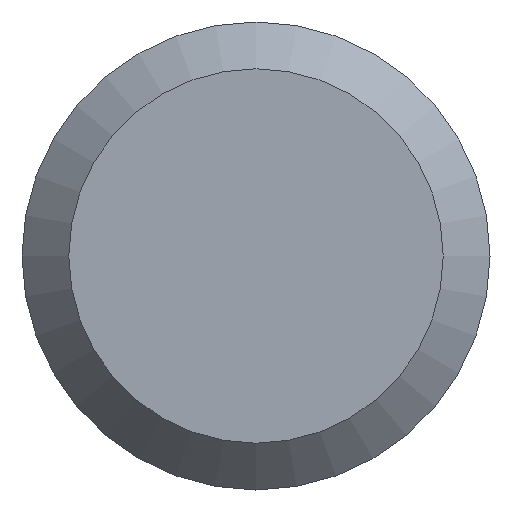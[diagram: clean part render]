
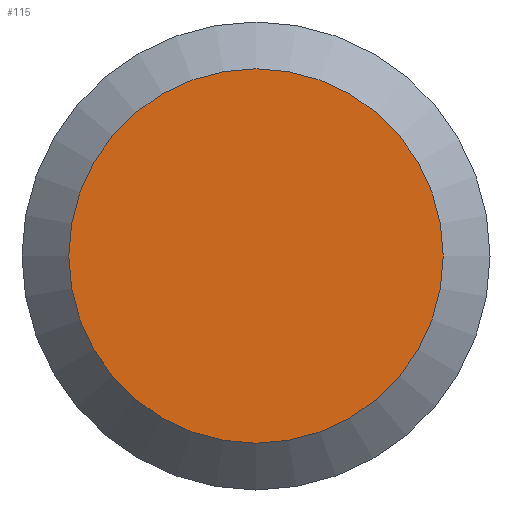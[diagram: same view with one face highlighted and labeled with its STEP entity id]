
A CAD part, left-side view. The second image highlights one B-rep face of the part: STEP entity #115.
In plain terms, the highlighted planar face has unit normal (-1, 0, 0).
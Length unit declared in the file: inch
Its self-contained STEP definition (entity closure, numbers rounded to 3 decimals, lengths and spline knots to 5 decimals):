
#6 = AXIS2_PLACEMENT_3D ( 'NONE', #103, #139, #217 ) ;
#8 = PLANE ( 'NONE',  #177 ) ;
#58 = DIRECTION ( 'NONE',  ( 0., 0., -1. ) ) ;
#62 = ORIENTED_EDGE ( 'NONE', *, *, #174, .T. ) ;
#89 = EDGE_LOOP ( 'NONE', ( #62 ) ) ;
#103 = CARTESIAN_POINT ( 'NONE',  ( 0., 0., 0. ) ) ;
#115 = ADVANCED_FACE ( 'NONE', ( #224 ), #8, .F. ) ;
#137 = CARTESIAN_POINT ( 'NONE',  ( 0., 0.05325, 0. ) ) ;
#139 = DIRECTION ( 'NONE',  ( -1., 0., 0. ) ) ;
#174 = EDGE_CURVE ( 'NONE', #249, #249, #181, .T. ) ;
#177 = AXIS2_PLACEMENT_3D ( 'NONE', #137, #216, #58 ) ;
#181 = CIRCLE ( 'NONE', #6, 0.0426 ) ;
#216 = DIRECTION ( 'NONE',  ( 1., 0., 0. ) ) ;
#217 = DIRECTION ( 'NONE',  ( 0., 0., -1. ) ) ;
#224 = FACE_OUTER_BOUND ( 'NONE', #89, .T. ) ;
#236 = CARTESIAN_POINT ( 'NONE',  ( 0., 0., -0.0426 ) ) ;
#249 = VERTEX_POINT ( 'NONE', #236 ) ;
